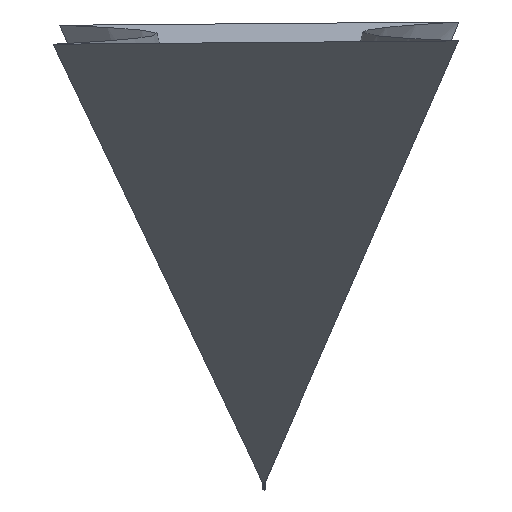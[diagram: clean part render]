
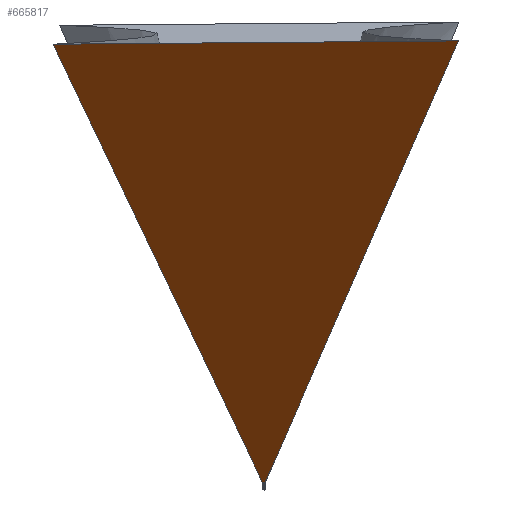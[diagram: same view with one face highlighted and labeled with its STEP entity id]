
A CAD part, left-side view. The second image highlights one B-rep face of the part: STEP entity #665817.
In plain terms, the highlighted planar face has unit normal (-0.492, -0.007, -0.871) as drawn and (0.871, 0.492, -0.014) by its records, which use the part's own axes.
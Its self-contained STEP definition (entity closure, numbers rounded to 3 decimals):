
#665578=CARTESIAN_POINT('Vertex',(1099.61,55.28,1270.911)) ;
#665582=CARTESIAN_POINT('Control Point',(1099.61,55.28,1270.911)) ;
#665583=CARTESIAN_POINT('Control Point',(-2170.576,5893.394,2866.774)) ;
#665584=CARTESIAN_POINT('Control Point',(-5440.763,11731.508,4462.637)) ;
#665585=CARTESIAN_POINT('Control Point',(-8710.949,17569.622,6058.5)) ;
#665586=CARTESIAN_POINT('Vertex',(-8710.949,17569.622,6058.5)) ;
#665769=CARTESIAN_POINT('Axis2P3D Location',(1050.465,141.995,1259.541)) ;
#665774=CARTESIAN_POINT('Line Origine',(1099.401,55.284,1258.247)) ;
#665778=CARTESIAN_POINT('Vertex',(1099.192,55.288,1245.582)) ;
#665782=CARTESIAN_POINT('Control Point',(1099.192,55.288,1245.582)) ;
#665783=CARTESIAN_POINT('Control Point',(15.951,1960.463,781.781)) ;
#665784=CARTESIAN_POINT('Control Point',(-1067.29,3865.637,317.982)) ;
#665785=CARTESIAN_POINT('Control Point',(-2633.293,6619.882,-352.517)) ;
#665786=CARTESIAN_POINT('Control Point',(-4498.57,9900.478,-1151.147)) ;
#665787=CARTESIAN_POINT('Control Point',(-6363.847,13181.077,-1949.767)) ;
#665788=CARTESIAN_POINT('Control Point',(-7145.882,14556.499,-2284.594)) ;
#665789=CARTESIAN_POINT('Control Point',(-7939.589,15952.451,-2624.416)) ;
#665790=CARTESIAN_POINT('Control Point',(-8733.297,17348.403,-2964.235)) ;
#665791=CARTESIAN_POINT('Control Point',(-8744.969,17368.932,-2969.232)) ;
#665792=CARTESIAN_POINT('Control Point',(-8775.097,17421.919,-2982.131)) ;
#665793=CARTESIAN_POINT('Control Point',(-8805.225,17474.907,-2995.029)) ;
#665794=CARTESIAN_POINT('Control Point',(-8823.68,17507.366,-3002.927)) ;
#665795=CARTESIAN_POINT('Control Point',(-8842.136,17539.826,-3010.82)) ;
#665796=CARTESIAN_POINT('Control Point',(-8860.593,17572.288,-3018.707)) ;
#665797=CARTESIAN_POINT('Vertex',(-8860.593,17572.288,-3018.707)) ;
#665801=CARTESIAN_POINT('Control Point',(-8860.593,17572.288,-3018.707)) ;
#665802=CARTESIAN_POINT('Control Point',(-8851.211,17572.118,-2449.679)) ;
#665803=CARTESIAN_POINT('Control Point',(-8841.396,17571.941,-1854.35)) ;
#665804=CARTESIAN_POINT('Control Point',(-8831.206,17571.758,-1236.277)) ;
#665805=CARTESIAN_POINT('Control Point',(-8802.774,17571.247,488.288)) ;
#665806=CARTESIAN_POINT('Control Point',(-8772.223,17570.702,2341.576)) ;
#665807=CARTESIAN_POINT('Control Point',(-8752.314,17570.347,3549.26)) ;
#665808=CARTESIAN_POINT('Control Point',(-8731.862,17569.984,4789.952)) ;
#665809=CARTESIAN_POINT('Control Point',(-8710.95,17569.612,6058.5)) ;
#665770=DIRECTION('Axis2P3D Direction',(0.871,0.492,-0.014)) ;
#665771=DIRECTION('Axis2P3D XDirection',(0.,-0.029,-1.)) ;
#665775=DIRECTION('Vector Direction',(-0.016,0.,-1.)) ;
#665772=AXIS2_PLACEMENT_3D('Plane Axis2P3D',#665769,#665770,#665771) ;
#665812=ORIENTED_EDGE('',*,*,#665780,.T.) ;
#665813=ORIENTED_EDGE('',*,*,#665799,.T.) ;
#665814=ORIENTED_EDGE('',*,*,#665810,.T.) ;
#665815=ORIENTED_EDGE('',*,*,#665588,.F.) ;
#665776=VECTOR('Line Direction',#665775,1.) ;
#665817=ADVANCED_FACE('NONE',(#665816),#665773,.T.) ;
#665581=B_SPLINE_CURVE_WITH_KNOTS('',3,(#665582,#665583,#665584,#665585),.UNSPECIFIED.,.F.,.U.,(4,4),(0.001,15407.944),.UNSPECIFIED.) ;
#665781=B_SPLINE_CURVE_WITH_KNOTS('',5,(#665782,#665783,#665784,#665785,#665786,#665787,#665788,#665789,#665790,#665791,#665792,#665793,#665794,#665795,#665796),.UNSPECIFIED.,.F.,.U.,(6,3,3,3,6),(0.,15840.16,27275.795,27446.476,27716.346),.UNSPECIFIED.) ;
#665800=B_SPLINE_CURVE_WITH_KNOTS('',5,(#665801,#665802,#665803,#665804,#665805,#665806,#665807,#665808,#665809),.UNSPECIFIED.,.F.,.U.,(6,3,6),(0.,4761.974,12873.731),.UNSPECIFIED.) ;
#665588=EDGE_CURVE('',#665579,#665587,#665581,.T.) ;
#665780=EDGE_CURVE('',#665579,#665779,#665777,.T.) ;
#665799=EDGE_CURVE('',#665779,#665798,#665781,.T.) ;
#665810=EDGE_CURVE('',#665798,#665587,#665800,.T.) ;
#665811=EDGE_LOOP('',(#665812,#665813,#665814,#665815)) ;
#665816=FACE_OUTER_BOUND('',#665811,.T.) ;
#665777=LINE('Line',#665774,#665776) ;
#665773=PLANE('',#665772) ;
#665579=VERTEX_POINT('',#665578) ;
#665587=VERTEX_POINT('',#665586) ;
#665779=VERTEX_POINT('',#665778) ;
#665798=VERTEX_POINT('',#665797) ;
